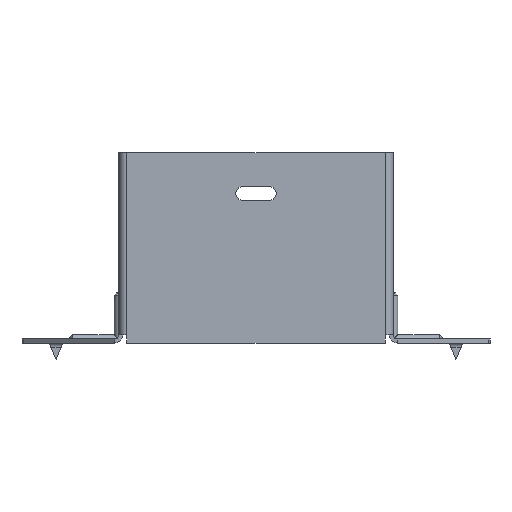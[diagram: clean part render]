
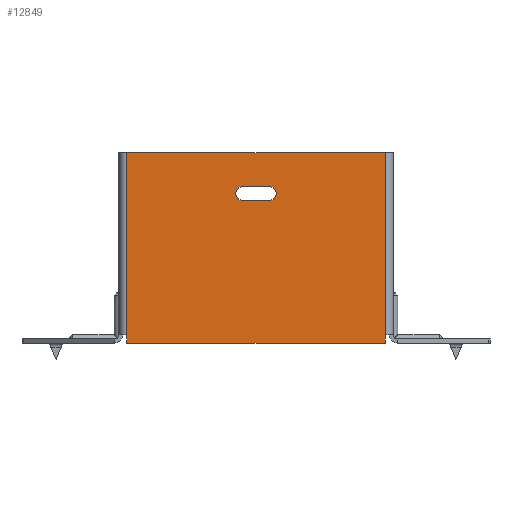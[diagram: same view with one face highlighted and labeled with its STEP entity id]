
A CAD part, front view. The second image highlights one B-rep face of the part: STEP entity #12849.
In plain terms, the highlighted planar face has unit normal (0, -1, 0).
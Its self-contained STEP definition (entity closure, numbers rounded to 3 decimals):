
#8 = CARTESIAN_POINT ( 'NONE',  ( 47.5, 0., -70. ) ) ;
#32 = EDGE_CURVE ( 'NONE', #1214, #10627, #9567, .T. ) ;
#254 = VERTEX_POINT ( 'NONE', #9107 ) ;
#327 = CARTESIAN_POINT ( 'NONE',  ( -47.5, 0., -67. ) ) ;
#715 = VERTEX_POINT ( 'NONE', #8986 ) ;
#739 = DIRECTION ( 'NONE',  ( 1., 0., 0. ) ) ;
#834 = VERTEX_POINT ( 'NONE', #14185 ) ;
#939 = LINE ( 'NONE', #9998, #1333 ) ;
#1170 = ORIENTED_EDGE ( 'NONE', *, *, #32, .T. ) ;
#1214 = VERTEX_POINT ( 'NONE', #10290 ) ;
#1333 = VECTOR ( 'NONE', #9947, 1000. ) ;
#1390 = VERTEX_POINT ( 'NONE', #4481 ) ;
#1403 = CARTESIAN_POINT ( 'NONE',  ( -5., 0., -17.5 ) ) ;
#1521 = PLANE ( 'NONE',  #14545 ) ;
#1551 = CARTESIAN_POINT ( 'NONE',  ( -49., 0., 0. ) ) ;
#2171 = EDGE_CURVE ( 'NONE', #11276, #715, #10504, .T. ) ;
#2391 = ORIENTED_EDGE ( 'NONE', *, *, #13081, .T. ) ;
#2756 = DIRECTION ( 'NONE',  ( 0., 1., 0. ) ) ;
#3027 = VECTOR ( 'NONE', #12316, 1000. ) ;
#3244 = LINE ( 'NONE', #8, #6331 ) ;
#4022 = CARTESIAN_POINT ( 'NONE',  ( 0., 0., 0. ) ) ;
#4481 = CARTESIAN_POINT ( 'NONE',  ( 5., 0., -12.5 ) ) ;
#5381 = EDGE_CURVE ( 'NONE', #10627, #14031, #14324, .T. ) ;
#6122 = CARTESIAN_POINT ( 'NONE',  ( -49., 0., -70. ) ) ;
#6331 = VECTOR ( 'NONE', #8526, 1000. ) ;
#6621 = CARTESIAN_POINT ( 'NONE',  ( 47.5, 0., -70. ) ) ;
#6696 = VECTOR ( 'NONE', #15036, 1000. ) ;
#6727 = CARTESIAN_POINT ( 'NONE',  ( -5., 0., -15. ) ) ;
#6849 = DIRECTION ( 'NONE',  ( 0., 0., -1. ) ) ;
#7440 = CIRCLE ( 'NONE', #9009, 2.5 ) ;
#7617 = VECTOR ( 'NONE', #6849, 1000. ) ;
#7724 = DIRECTION ( 'NONE',  ( 0., 0., 1. ) ) ;
#8031 = LINE ( 'NONE', #1551, #11457 ) ;
#8242 = FACE_OUTER_BOUND ( 'NONE', #14292, .T. ) ;
#8426 = FACE_BOUND ( 'NONE', #14272, .T. ) ;
#8526 = DIRECTION ( 'NONE',  ( 0., 0., 1. ) ) ;
#8657 = ORIENTED_EDGE ( 'NONE', *, *, #15700, .F. ) ;
#8986 = CARTESIAN_POINT ( 'NONE',  ( -47.5, 0., -70. ) ) ;
#9009 = AXIS2_PLACEMENT_3D ( 'NONE', #15109, #13122, #9430 ) ;
#9077 = ORIENTED_EDGE ( 'NONE', *, *, #5381, .T. ) ;
#9107 = CARTESIAN_POINT ( 'NONE',  ( -47.5, 0., 0. ) ) ;
#9288 = CARTESIAN_POINT ( 'NONE',  ( -5., 0., -12.5 ) ) ;
#9357 = DIRECTION ( 'NONE',  ( 0., 0., 1. ) ) ;
#9430 = DIRECTION ( 'NONE',  ( 0., 0., 1. ) ) ;
#9567 = LINE ( 'NONE', #1403, #3027 ) ;
#9947 = DIRECTION ( 'NONE',  ( 0., 0., -1. ) ) ;
#9967 = ORIENTED_EDGE ( 'NONE', *, *, #10977, .T. ) ;
#9998 = CARTESIAN_POINT ( 'NONE',  ( -47.5, 0., 0. ) ) ;
#10051 = ORIENTED_EDGE ( 'NONE', *, *, #13343, .F. ) ;
#10174 = LINE ( 'NONE', #10686, #13619 ) ;
#10181 = DIRECTION ( 'NONE',  ( 1., 0., 0. ) ) ;
#10290 = CARTESIAN_POINT ( 'NONE',  ( 5., 0., -17.5 ) ) ;
#10504 = LINE ( 'NONE', #12792, #7617 ) ;
#10582 = DIRECTION ( 'NONE',  ( 0., 1., 0. ) ) ;
#10612 = EDGE_CURVE ( 'NONE', #254, #11276, #939, .T. ) ;
#10627 = VERTEX_POINT ( 'NONE', #12287 ) ;
#10686 = CARTESIAN_POINT ( 'NONE',  ( -5., 0., -12.5 ) ) ;
#10822 = ORIENTED_EDGE ( 'NONE', *, *, #10612, .T. ) ;
#10977 = EDGE_CURVE ( 'NONE', #11583, #15692, #3244, .T. ) ;
#11276 = VERTEX_POINT ( 'NONE', #327 ) ;
#11402 = ORIENTED_EDGE ( 'NONE', *, *, #15387, .T. ) ;
#11457 = VECTOR ( 'NONE', #10181, 1000. ) ;
#11583 = VERTEX_POINT ( 'NONE', #15685 ) ;
#12081 = LINE ( 'NONE', #6122, #14954 ) ;
#12266 = LINE ( 'NONE', #6621, #6696 ) ;
#12287 = CARTESIAN_POINT ( 'NONE',  ( -5., 0., -17.5 ) ) ;
#12316 = DIRECTION ( 'NONE',  ( -1., 0., 0. ) ) ;
#12414 = ORIENTED_EDGE ( 'NONE', *, *, #2171, .T. ) ;
#12449 = CARTESIAN_POINT ( 'NONE',  ( 47.5, 0., -67. ) ) ;
#12792 = CARTESIAN_POINT ( 'NONE',  ( -47.5, 0., 0. ) ) ;
#12849 = ADVANCED_FACE ( 'NONE', ( #8426, #8242 ), #1521, .F. ) ;
#13081 = EDGE_CURVE ( 'NONE', #1390, #1214, #7440, .T. ) ;
#13122 = DIRECTION ( 'NONE',  ( 0., 1., 0. ) ) ;
#13343 = EDGE_CURVE ( 'NONE', #254, #834, #8031, .T. ) ;
#13619 = VECTOR ( 'NONE', #739, 1000. ) ;
#13829 = AXIS2_PLACEMENT_3D ( 'NONE', #6727, #10582, #9357 ) ;
#14031 = VERTEX_POINT ( 'NONE', #9288 ) ;
#14185 = CARTESIAN_POINT ( 'NONE',  ( 47.5, 0., 0. ) ) ;
#14272 = EDGE_LOOP ( 'NONE', ( #1170, #9077, #15257, #2391 ) ) ;
#14292 = EDGE_LOOP ( 'NONE', ( #10822, #12414, #8657, #9967, #11402, #10051 ) ) ;
#14324 = CIRCLE ( 'NONE', #13829, 2.5 ) ;
#14545 = AXIS2_PLACEMENT_3D ( 'NONE', #4022, #2756, #7724 ) ;
#14552 = DIRECTION ( 'NONE',  ( -1., 0., 0. ) ) ;
#14954 = VECTOR ( 'NONE', #14552, 1000. ) ;
#15036 = DIRECTION ( 'NONE',  ( 0., 0., 1. ) ) ;
#15109 = CARTESIAN_POINT ( 'NONE',  ( 5., 0., -15. ) ) ;
#15257 = ORIENTED_EDGE ( 'NONE', *, *, #15592, .T. ) ;
#15387 = EDGE_CURVE ( 'NONE', #15692, #834, #12266, .T. ) ;
#15592 = EDGE_CURVE ( 'NONE', #14031, #1390, #10174, .T. ) ;
#15685 = CARTESIAN_POINT ( 'NONE',  ( 47.5, 0., -70. ) ) ;
#15692 = VERTEX_POINT ( 'NONE', #12449 ) ;
#15700 = EDGE_CURVE ( 'NONE', #11583, #715, #12081, .T. ) ;
